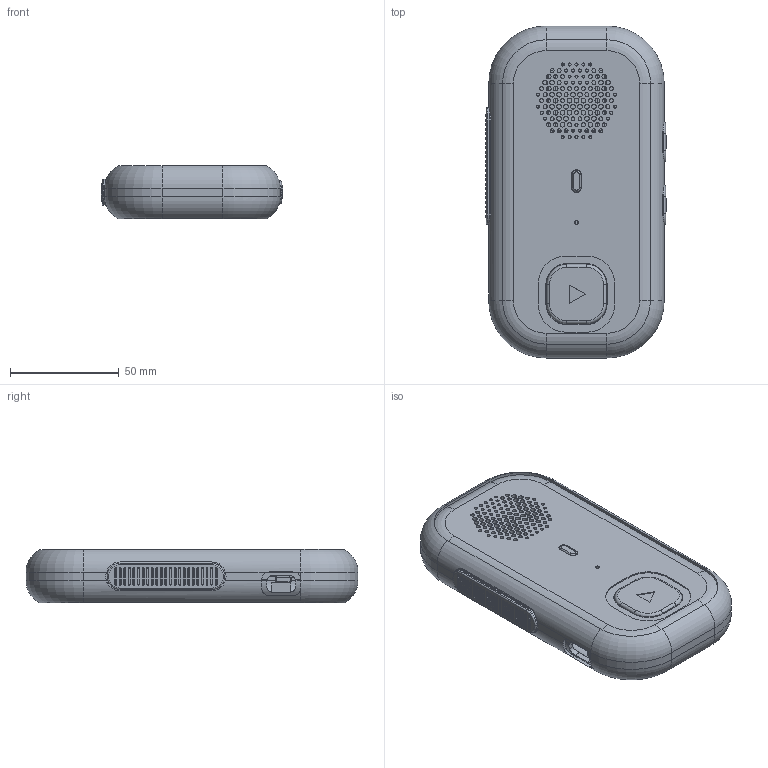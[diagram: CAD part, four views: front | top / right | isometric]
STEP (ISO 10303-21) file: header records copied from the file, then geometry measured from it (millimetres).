
FILE_DESCRIPTION(('Open CASCADE Model'),'2;1');
FILE_NAME('Walkie_One_Concept_27_UC1_CASE','2026-09-09T20:28:32',( 'Author'),('Open CASCADE'),'Open CASCADE STEP processor 7.9', 'build123d','Unknown');
FILE_SCHEMA(('AUTOMOTIVE_DESIGN { 1 0 10303 214 1 1 1 1 }'));
Length unit declared in the file: millimetre
Products named in the file (93): Walkie_One_Concept_27_UC1_CASE; C27_UC1_01_Front_Shell_Chalk_Centered_Mic; C27_UC1_02_Back_Shell_Chalk; C27_UC1_03_Front_Action_Rigid_Carrier; C27_UC1_04_Status_Lens; C27_UC1_05_Front_Switch_Clamp; C27_UC1_06_PTT_Rigid_Carrier; C27_UC1_07_Volume_Up_Rigid_Carrier; C27_UC1_08_Volume_Down_Rigid_Carrier; C27_UC1_09_Warm_Grey_Elastomer_Rim; C27_UC1_10_Front_Action_Pewter_Cap; C27_UC1_11_Front_Action_Bond_Film; C27_UC1_12_Volume_Up_Pewter_Cap; C27_UC1_13_Volume_Up_Bond_Film; C27_UC1_14_Volume_Down_Pewter_Cap; C27_UC1_15_Volume_Down_Bond_Film; C27_UC1_16_Orange_Ribbed_PTT_Grip; C27_UC1_17_PTT_Bond_Film; C27_UC1_PCB_Front_Seat_1; C27_UC1_PCB_Rear_Preload_1; C27_UC1_PCB_Front_Seat_2; C27_UC1_PCB_Rear_Preload_2; C27_UC1_PCB_Front_Seat_3; C27_UC1_PCB_Rear_Preload_3; C27_UC1_PCB_Front_Seat_4; C27_UC1_PCB_Rear_Preload_4; C27_UC1_Battery_Front_Pad_-1_Segment_1; C27_UC1_Battery_Front_Pad_-1_Segment_2; C27_UC1_Battery_Rear_Pad_-1; C27_UC1_Battery_Side_Liner_-1; C27_UC1_Battery_Front_Pad_1; C27_UC1_Battery_Rear_Pad_1; C27_UC1_Battery_Side_Liner_1; C27_UC1_Battery_Lower_Liner; C27_UC1_Battery_Upper_Liner_-1; C27_UC1_Battery_Upper_Liner_1; C27_UC1_Speaker_Front_Gasket; C27_UC1_Speaker_Ear_Keeper_1; C27_UC1_Speaker_Ear_Preload_1; C27_UC1_Speaker_Ear_Keeper_2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
Assembly tree (92 placements, depth 3):
  Walkie_One_Concept_27_UC1_CASE
    C27_UC1_01_Front_Shell_Chalk_Centered_Mic
    C27_UC1_02_Back_Shell_Chalk
    C27_UC1_03_Front_Action_Rigid_Carrier
    C27_UC1_04_Status_Lens
    C27_UC1_05_Front_Switch_Clamp
    C27_UC1_06_PTT_Rigid_Carrier
    C27_UC1_07_Volume_Up_Rigid_Carrier
    C27_UC1_08_Volume_Down_Rigid_Carrier
    C27_UC1_09_Warm_Grey_Elastomer_Rim
    C27_UC1_10_Front_Action_Pewter_Cap
    C27_UC1_11_Front_Action_Bond_Film
    C27_UC1_12_Volume_Up_Pewter_Cap
    C27_UC1_13_Volume_Up_Bond_Film
    C27_UC1_14_Volume_Down_Pewter_Cap
    C27_UC1_15_Volume_Down_Bond_Film
    C27_UC1_16_Orange_Ribbed_PTT_Grip
    C27_UC1_17_PTT_Bond_Film
    C27_UC1_PCB_Front_Seat_1
    C27_UC1_PCB_Rear_Preload_1
    C27_UC1_PCB_Front_Seat_2
    C27_UC1_PCB_Rear_Preload_2
    C27_UC1_PCB_Front_Seat_3
    C27_UC1_PCB_Rear_Preload_3
    C27_UC1_PCB_Front_Seat_4
    C27_UC1_PCB_Rear_Preload_4
    C27_UC1_Battery_Front_Pad_-1_Segment_1
    C27_UC1_Battery_Front_Pad_-1_Segment_2
    C27_UC1_Battery_Rear_Pad_-1
    C27_UC1_Battery_Side_Liner_-1
    C27_UC1_Battery_Front_Pad_1
    C27_UC1_Battery_Rear_Pad_1
    C27_UC1_Battery_Side_Liner_1
    C27_UC1_Battery_Lower_Liner
    C27_UC1_Battery_Upper_Liner_-1
    C27_UC1_Battery_Upper_Liner_1
    C27_UC1_Speaker_Front_Gasket
    C27_UC1_Speaker_Ear_Keeper_1
    C27_UC1_Speaker_Ear_Preload_1
    C27_UC1_Speaker_Ear_Keeper_2
    C27_UC1_Speaker_Ear_Preload_2
    C27_UC1_Microphone_Removable_Keeper
    C27_UC1_Microphone_Rear_Preload
    C27_UC1_Mic_Front_Seat_1
    C27_UC1_Mic_Front_Seat_2
    C27_UC1_Mic_Front_Seat_3
    C27_UC1_Mic_Front_Seat_4
    C27_UC1_Microphone_Acoustic_Seal
    C27_UC1_Microphone_Acoustic_Membrane
    C27_UC1_LED_Horizontal_Removable_Keeper
    C27_UC1_LED_Saddle_Pad_1
    C27_UC1_LED_Saddle_Pad_2
    C27_UC1_Internal_Right_Angle_Light_Coupler
    C27_UC1_Optical_Coupling_Film
    C27_UC1_LTE_Nonmetallic_Service_Frame
    C27_UC1_LTE_Dielectric_Seat
    C27_UC1_LTE_Seat_Bond_Film
    C27_UC1_HW_Closure_-33.4_-56
      C27_UC1_HW_Closure_-33.4_-56_1
    C27_UC1_HW_Closure_-33.4_56
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Bounding box: 83.35 x 152.7 x 24.74 mm (x, y, z)
Volume: 87851.7 mm3; surface area: 123742.9 mm2
Topology: 74 solids, 74 shells, 3902 faces, 10447 edges, 6815 vertices
Faces by surface type: plane 1812, cylinder 1303, bspline 552, torus 192, cone 36, revolution 4, sphere 3
Full cylindrical faces by diameter (mm): 1.4 x32, 1.5 x5, 1.567 x14, 1.7 x26, 1.8 x49, 2.013 x4, 2.1 x4, 2.2 x44, 2.3 x12, 2.6 x6, 2.8 x4, 2.9 x4, 3 x3, 4.2 x6, 4.68 x4, 5 x1, 5.3 x1, 5.4 x1, 5.5 x1, 35.8 x1, 39.6 x1
Entity records: 287531 total; most frequent: CARTESIAN_POINT 84275, DIRECTION 35651, ORIENTED_EDGE 20892, PCURVE 20892, DEFINITIONAL_REPRESENTATION 20892, LINE 20732, VECTOR 20732, EDGE_CURVE 10446
